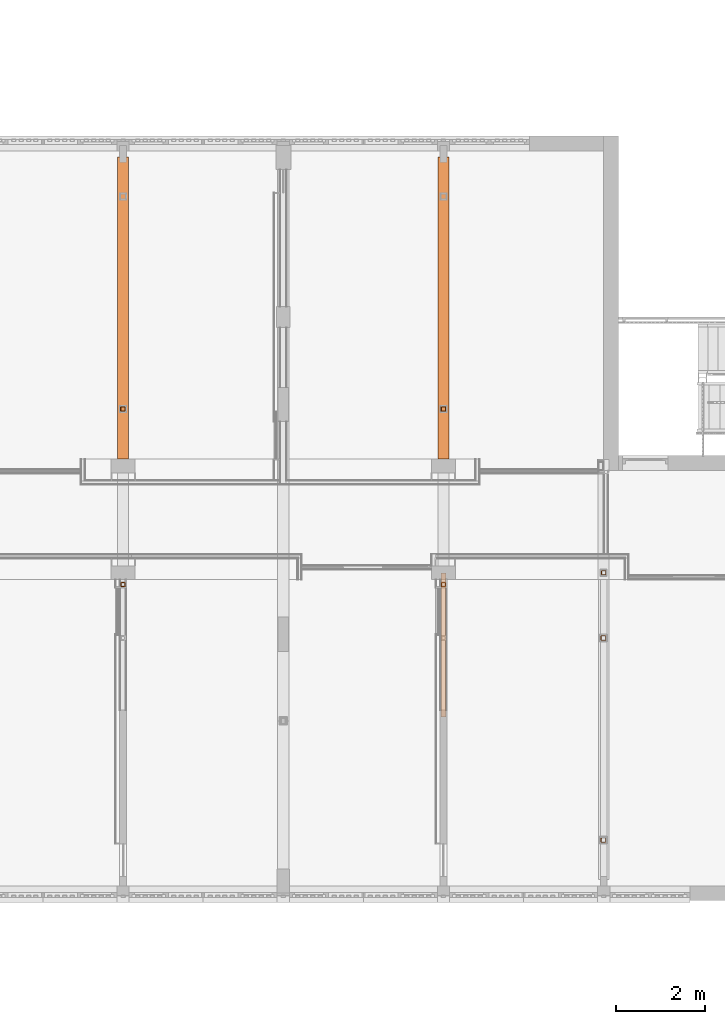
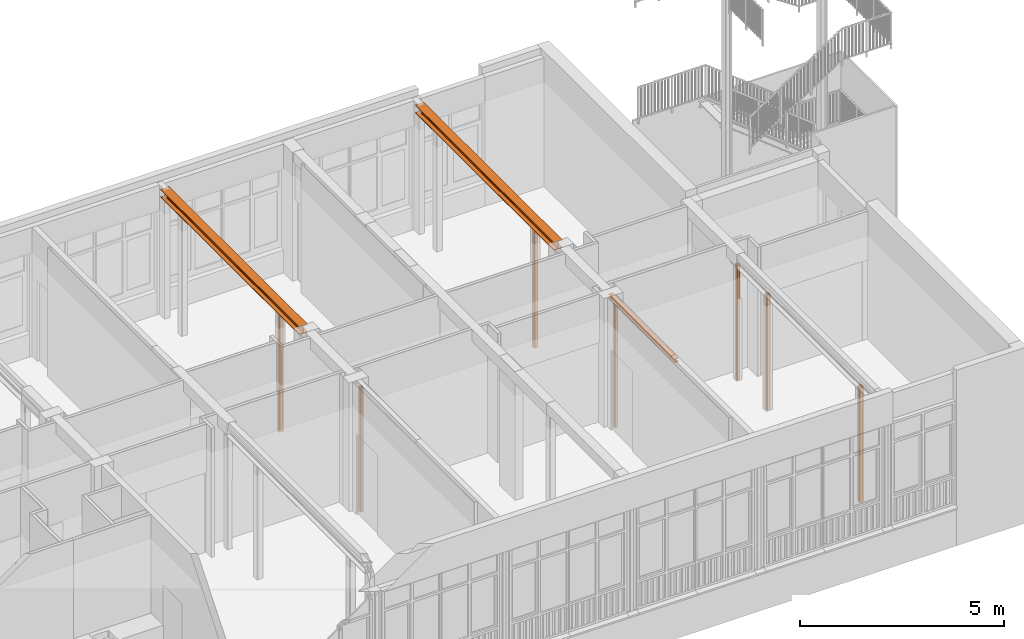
# One storey, part 124 of 135: 10 proxies.
"""IFC2X3 building model written with IfcOpenShell, lengths in millimetres."""

from ifc_helpers import new_model, entity, si_unit, converted_unit, derived_unit, money_unit, direction, frame, origin_with_axes, place, context, subcontext, project, spatial, faceted_brep, source, transform, mapped, material, type_object, type_shapes, element, save


model = new_model("IFC2X3")

# Units and contexts
model_context = context("Model", 3, precision=0.01, world=origin_with_axes(), true_north=direction((0.0, 1.0)))
body_context = subcontext(model_context, "Body", "Model", "MODEL_VIEW")
ifc_project = project(units=[si_unit("LENGTHUNIT", "METRE", prefix="MILLI"), si_unit("AREAUNIT", "SQUARE_METRE"), si_unit("VOLUMEUNIT", "CUBIC_METRE"), converted_unit("PLANEANGLEUNIT", "DEGREE", entity("IfcPlaneAngleMeasure", 0.0174532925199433), si_unit("PLANEANGLEUNIT", "RADIAN"), dimensions=[0, 0, 0, 0, 0, 0, 0]), money_unit("EUR"), converted_unit("TIMEUNIT", "Year", entity("IfcTimeMeasure", 31557600.0), si_unit("TIMEUNIT", "SECOND"), dimensions=[0, 0, 1, 0, 0, 0, 0]), si_unit("MASSUNIT", "GRAM", prefix="KILO"), si_unit("THERMODYNAMICTEMPERATUREUNIT", "DEGREE_CELSIUS"), si_unit("LUMINOUSINTENSITYUNIT", "LUMEN"), si_unit("ENERGYUNIT", "JOULE", prefix="MEGA"), derived_unit("THERMALCONDUCTANCEUNIT", [(si_unit("POWERUNIT", "WATT"), 1), (si_unit("LENGTHUNIT", "METRE"), -1), (si_unit("THERMODYNAMICTEMPERATUREUNIT", "KELVIN"), -1)]), derived_unit("SPECIFICHEATCAPACITYUNIT", [(si_unit("ENERGYUNIT", "JOULE"), 1), (si_unit("MASSUNIT", "GRAM", prefix="KILO"), -1), (si_unit("THERMODYNAMICTEMPERATUREUNIT", "KELVIN"), -1)]), derived_unit("MASSDENSITYUNIT", [(si_unit("MASSUNIT", "GRAM", prefix="KILO"), 1), (si_unit("VOLUMEUNIT", "CUBIC_METRE"), -1)])], contexts=[model_context])

# Site, building, storey
site_placement = place(None, origin_with_axes())
site = spatial("IfcSite", under=ifc_project, at=site_placement, Name="Site", CompositionType="ELEMENT")
building_placement = place(site_placement, origin_with_axes())
building = spatial("IfcBuilding", under=site, at=building_placement, Name="Naam gebouw", CompositionType="ELEMENT")
storey_placement = place(building_placement, origin_with_axes())
storey = spatial("IfcBuildingStorey", under=building, at=storey_placement, Name="Begane grond N", CompositionType="ELEMENT", Elevation=0.0)

# Proxies
ifc_material = material(Name="Metaal - Staal AFW")
building_element_proxy_type_1 = type_object("IfcBuildingElementProxyType", Name="Buis vk warmgew kolom 27", PredefinedType="NOTDEFINED")
shared_shape_1 = source(origin_with_axes(), body_context, "Body", "Brep", [
    faceted_brep([(34.0, -50.0, 0.0), (34.0, -50.0, 3439.999999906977), (-34.0, -50.0, 3439.999999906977), (-34.0, -50.0, 0.0), (45.31370849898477, -45.31370849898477, 0.0), (45.31370849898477, -45.31370849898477, 3439.999999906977), (50.0, -34.0, 3439.999999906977), (50.0, 34.0, 3439.999999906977), (45.31370849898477, 45.31370849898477, 3439.999999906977), (34.0, 50.0, 3439.999999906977), (-34.0, 50.0, 3439.999999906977), (-45.31370849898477, 45.31370849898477, 3439.999999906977), (-50.0, 34.0, 3439.999999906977), (-50.0, -34.0, 3439.999999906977), (-45.31370849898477, -45.31370849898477, 3439.999999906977), (34.00000000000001, -41.99999999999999, 3439.999999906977), (-34.0, -42.0, 3439.999999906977), (-39.65685424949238, -39.65685424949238, 3439.999999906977), (-41.99999999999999, -34.00000000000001, 3439.999999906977), (-42.0, 34.0, 3439.999999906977), (-39.65685424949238, 39.65685424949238, 3439.999999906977), (-34.00000000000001, 41.99999999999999, 3439.999999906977), (34.0, 42.0, 3439.999999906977), (39.65685424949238, 39.65685424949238, 3439.999999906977), (41.99999999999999, 34.00000000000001, 3439.999999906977), (42.0, -34.0, 3439.999999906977), (39.65685424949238, -39.65685424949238, 3439.999999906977), (-45.31370849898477, -45.31370849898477, 0.0), (-50.0, -34.0, 0.0), (-50.0, 34.0, 0.0), (-45.31370849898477, 45.31370849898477, 0.0), (-34.0, 50.0, 0.0), (34.0, 50.0, 0.0), (45.31370849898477, 45.31370849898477, 0.0), (50.0, 34.0, 0.0), (50.0, -34.0, 0.0), (34.00000000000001, -41.99999999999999, 0.0), (39.65685424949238, -39.65685424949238, 0.0), (42.0, -34.0, 0.0), (41.99999999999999, 34.00000000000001, 0.0), (39.65685424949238, 39.65685424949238, 0.0), (34.0, 42.0, 0.0), (-34.00000000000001, 41.99999999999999, 0.0), (-39.65685424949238, 39.65685424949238, 0.0), (-42.0, 34.0, 0.0), (-41.99999999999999, -34.00000000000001, 0.0), (-39.65685424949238, -39.65685424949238, 0.0), (-34.0, -42.0, 0.0)], [[[0, 1, 2, 3]], [[4, 5, 1, 0]], [[1, 5, 6, 7, 8, 9, 10, 11, 12, 13, 14, 2], [15, 16, 17, 18, 19, 20, 21, 22, 23, 24, 25, 26]], [[3, 2, 14, 27]], [[0, 3, 27, 28, 29, 30, 31, 32, 33, 34, 35, 4], [36, 37, 38, 39, 40, 41, 42, 43, 44, 45, 46, 47]], [[35, 6, 5, 4]], [[34, 7, 6, 35]], [[33, 8, 7, 34]], [[32, 9, 8, 33]], [[31, 10, 9, 32]], [[30, 11, 10, 31]], [[29, 12, 11, 30]], [[28, 13, 12, 29]], [[27, 14, 13, 28]], [[47, 16, 15, 36]], [[46, 17, 16, 47]], [[45, 18, 17, 46]], [[44, 19, 18, 45]], [[43, 20, 19, 44]], [[42, 21, 20, 43]], [[41, 22, 21, 42]], [[40, 23, 22, 41]], [[39, 24, 23, 40]], [[38, 25, 24, 39]], [[37, 26, 25, 38]], [[36, 15, 26, 37]]]),
])
proxy_1_placement = place(storey_placement, frame((54000.0, 18025.91242510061, 0.0), z_axis=(0.0, 0.0, 1.0), x_axis=(0.0, -1.0, 0.0)))
element("IfcBuildingElementProxy", 1, at=proxy_1_placement, inside=storey, type_object=building_element_proxy_type_1, material=ifc_material, Name="_Boom-x", context=body_context, shape_type="MappedRepresentation", body=[
    mapped(shared_shape_1, transform((0.0, 0.0, 0.0))),
])
shared_shape_2 = source(origin_with_axes(), body_context, "Body", "Brep", [
    faceted_brep([(34.0, -50.0, 0.0), (34.0, -50.0, 3716.047681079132), (-34.0, -50.0, 3716.047681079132), (-34.0, -50.0, 0.0), (45.31370849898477, -45.31370849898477, 0.0), (45.31370849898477, -45.31370849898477, 3716.047681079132), (50.0, -34.0, 3716.047681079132), (50.0, 34.0, 3716.047681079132), (45.31370849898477, 45.31370849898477, 3716.047681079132), (34.0, 50.0, 3716.047681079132), (-34.0, 50.0, 3716.047681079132), (-45.31370849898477, 45.31370849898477, 3716.047681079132), (-50.0, 34.0, 3716.047681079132), (-50.0, -34.0, 3716.047681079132), (-45.31370849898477, -45.31370849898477, 3716.047681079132), (34.00000000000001, -41.99999999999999, 3716.047681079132), (-34.0, -42.0, 3716.047681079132), (-39.65685424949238, -39.65685424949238, 3716.047681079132), (-41.99999999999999, -34.00000000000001, 3716.047681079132), (-42.0, 34.0, 3716.047681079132), (-39.65685424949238, 39.65685424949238, 3716.047681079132), (-34.00000000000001, 41.99999999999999, 3716.047681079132), (34.0, 42.0, 3716.047681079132), (39.65685424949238, 39.65685424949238, 3716.047681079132), (41.99999999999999, 34.00000000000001, 3716.047681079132), (42.0, -34.0, 3716.047681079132), (39.65685424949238, -39.65685424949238, 3716.047681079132), (-45.31370849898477, -45.31370849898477, 0.0), (-50.0, -34.0, 0.0), (-50.0, 34.0, 0.0), (-45.31370849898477, 45.31370849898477, 0.0), (-34.0, 50.0, 0.0), (34.0, 50.0, 0.0), (45.31370849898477, 45.31370849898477, 0.0), (50.0, 34.0, 0.0), (50.0, -34.0, 0.0), (34.00000000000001, -41.99999999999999, 0.0), (39.65685424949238, -39.65685424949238, 0.0), (42.0, -34.0, 0.0), (41.99999999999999, 34.00000000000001, 0.0), (39.65685424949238, 39.65685424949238, 0.0), (34.0, 42.0, 0.0), (-34.00000000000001, 41.99999999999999, 0.0), (-39.65685424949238, 39.65685424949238, 0.0), (-42.0, 34.0, 0.0), (-41.99999999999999, -34.00000000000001, 0.0), (-39.65685424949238, -39.65685424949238, 0.0), (-34.0, -42.0, 0.0)], [[[0, 1, 2, 3]], [[4, 5, 1, 0]], [[1, 5, 6, 7, 8, 9, 10, 11, 12, 13, 14, 2], [15, 16, 17, 18, 19, 20, 21, 22, 23, 24, 25, 26]], [[3, 2, 14, 27]], [[0, 3, 27, 28, 29, 30, 31, 32, 33, 34, 35, 4], [36, 37, 38, 39, 40, 41, 42, 43, 44, 45, 46, 47]], [[35, 6, 5, 4]], [[34, 7, 6, 35]], [[33, 8, 7, 34]], [[32, 9, 8, 33]], [[31, 10, 9, 32]], [[30, 11, 10, 31]], [[29, 12, 11, 30]], [[28, 13, 12, 29]], [[27, 14, 13, 28]], [[47, 16, 15, 36]], [[46, 17, 16, 47]], [[45, 18, 17, 46]], [[44, 19, 18, 45]], [[43, 20, 19, 44]], [[42, 21, 20, 43]], [[41, 22, 21, 42]], [[40, 23, 22, 41]], [[39, 24, 23, 40]], [[38, 25, 24, 39]], [[37, 26, 25, 38]], [[36, 15, 26, 37]]]),
])
for number, where, z_axis, x_axis, name in (
    (2, (50399.99999999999, 17760.91242510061, 0.0), (0.0, 0.0, 1.0), (0.0, -1.0, 0.0), "_Boom-x"),
    (3, (43200.0, 17760.91242510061, 0.0), (0.0, 0.0, 1.0), (0.0, -1.0, 0.0), "_Boom-x"),
):
    element("IfcBuildingElementProxy", number, at=place(storey_placement, frame(where, z_axis=z_axis, x_axis=x_axis)), inside=storey, type_object=building_element_proxy_type_1, material=ifc_material, Name=name, context=body_context, shape_type="MappedRepresentation", body=[
        mapped(shared_shape_2, transform((0.0, 0.0, 0.0))),
    ])
building_element_proxy_type_2 = type_object("IfcBuildingElementProxyType", Name="HEB balk 27", PredefinedType="NOTDEFINED")
shared_shape_3 = source(origin_with_axes(), body_context, "Body", "Brep", [
    faceted_brep([(0.0, -120.0, 0.0), (-6785.0, -120.0000000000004, 0.0), (-6785.0, 119.9999999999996, 0.0), (0.0, 120.0, 0.0), (0.0, -120.0, 17.0), (-6785.0, -120.0000000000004, 17.00000000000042), (-6785.0, -26.00000000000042, 17.00000000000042), (-6785.0, -15.50000000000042, 19.81346652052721), (-6785.0, -7.813466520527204, 27.50000000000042), (-6785.0, -5.000000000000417, 38.00000000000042), (-6785.0, -5.000000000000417, 202.0000000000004), (-6785.0, -7.813466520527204, 212.5000000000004), (-6785.0, -15.50000000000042, 220.1865334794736), (-6785.0, -26.00000000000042, 223.0000000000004), (-6785.0, -120.0000000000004, 223.0000000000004), (-6785.0, -120.0000000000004, 240.0000000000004), (-6785.0, 119.9999999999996, 240.0000000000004), (-6785.0, 119.9999999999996, 223.0000000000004), (-6785.0, 25.99999999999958, 223.0000000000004), (-6785.0, 15.49999999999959, 220.1865334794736), (-6785.0, 7.813466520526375, 212.5000000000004), (-6785.0, 4.999999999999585, 202.0000000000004), (-6785.0, 4.999999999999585, 38.00000000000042), (-6785.0, 7.813466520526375, 27.50000000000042), (-6785.0, 15.49999999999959, 19.81346652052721), (-6785.0, 25.99999999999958, 17.00000000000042), (-6785.0, 119.9999999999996, 17.00000000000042), (0.0, 120.0, 17.0), (0.0, 26.0, 17.0), (0.0, 15.5, 19.8134665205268), (0.0, 7.81346652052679, 27.5), (0.0, 5.000000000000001, 38.00000000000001), (0.0, 5.000000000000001, 202.0), (0.0, 7.81346652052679, 212.5), (0.0, 15.5, 220.1865334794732), (0.0, 26.0, 223.0), (0.0, 120.0, 223.0), (0.0, 120.0, 240.0), (0.0, -120.0, 240.0), (0.0, -120.0, 223.0), (0.0, -26.0, 223.0), (0.0, -15.5, 220.1865334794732), (0.0, -7.81346652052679, 212.5), (0.0, -5.000000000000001, 202.0), (0.0, -5.000000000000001, 38.00000000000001), (0.0, -7.81346652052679, 27.5), (0.0, -15.5, 19.8134665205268), (0.0, -26.0, 17.0)], [[[0, 1, 2, 3]], [[4, 5, 1, 0]], [[1, 5, 6, 7, 8, 9, 10, 11, 12, 13, 14, 15, 16, 17, 18, 19, 20, 21, 22, 23, 24, 25, 26, 2]], [[3, 2, 26, 27]], [[0, 3, 27, 28, 29, 30, 31, 32, 33, 34, 35, 36, 37, 38, 39, 40, 41, 42, 43, 44, 45, 46, 47, 4]], [[47, 6, 5, 4]], [[46, 7, 6, 47]], [[45, 8, 7, 46]], [[44, 9, 8, 45]], [[43, 10, 9, 44]], [[42, 11, 10, 43]], [[41, 12, 11, 42]], [[40, 13, 12, 41]], [[39, 14, 13, 40]], [[38, 15, 14, 39]], [[37, 16, 15, 38]], [[36, 17, 16, 37]], [[35, 18, 17, 36]], [[34, 19, 18, 35]], [[33, 20, 19, 34]], [[32, 21, 20, 33]], [[31, 22, 21, 32]], [[30, 23, 22, 31]], [[29, 24, 23, 30]], [[28, 25, 24, 29]], [[27, 26, 25, 28]]]),
])
type_shapes(building_element_proxy_type_2, [shared_shape_3])
for number, where, z_axis, x_axis, name in (
    (4, (43199.99999999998, 20580.91242510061, 3590.0), (0.0, 0.0, 1.0), (0.0, -1.0, 0.0), "_Boom-x"),
    (5, (50399.99999999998, 20580.91242510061, 3590.0), (0.0, 0.0, 1.0), (0.0, -1.0, 0.0), "_Boom-x"),
):
    element("IfcBuildingElementProxy", number, at=place(storey_placement, frame(where, z_axis=z_axis, x_axis=x_axis)), inside=storey, type_object=building_element_proxy_type_2, material=ifc_material, Name=name, context=body_context, shape_type="MappedRepresentation", body=[
        mapped(shared_shape_3, transform((0.0, 0.0, 0.0))),
    ])
building_element_proxy_type_3 = type_object("IfcBuildingElementProxyType", Name="HEA balk 27", PredefinedType="NOTDEFINED")
shared_shape_4 = source(origin_with_axes(), body_context, "Body", "Brep", [
    faceted_brep([(0.0, -60.0, 0.0), (-3234.000000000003, -60.0000000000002, 0.0), (-3234.000000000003, 59.99999999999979, 0.0), (0.0, 60.0, 0.0), (0.0, -60.0, 8.0), (-3234.000000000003, -60.0000000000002, 8.000000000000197), (-3234.000000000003, -14.5000000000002, 8.000000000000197), (-3234.000000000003, -8.500000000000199, 9.607695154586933), (-3234.000000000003, -4.107695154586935, 14.0000000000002), (-3234.000000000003, -2.500000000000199, 20.0000000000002), (-3234.000000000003, -2.500000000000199, 94.00000000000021), (-3234.000000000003, -4.107695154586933, 100.0000000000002), (-3234.000000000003, -8.500000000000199, 104.3923048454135), (-3234.000000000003, -14.5000000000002, 106.0000000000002), (-3234.000000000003, -60.0000000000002, 106.0000000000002), (-3234.000000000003, -60.0000000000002, 114.0000000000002), (-3234.000000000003, 59.99999999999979, 114.0000000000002), (-3234.000000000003, 59.99999999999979, 106.0000000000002), (-3234.000000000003, 14.4999999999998, 106.0000000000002), (-3234.000000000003, 8.499999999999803, 104.3923048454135), (-3234.000000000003, 4.107695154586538, 100.0000000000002), (-3234.000000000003, 2.499999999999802, 94.00000000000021), (-3234.000000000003, 2.499999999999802, 20.0000000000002), (-3234.000000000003, 4.10769515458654, 14.0000000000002), (-3234.000000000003, 8.499999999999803, 9.607695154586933), (-3234.000000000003, 14.4999999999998, 8.000000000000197), (-3234.000000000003, 59.99999999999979, 8.000000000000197), (0.0, 60.0, 8.0), (0.0, 14.5, 8.0), (0.0, 8.5, 9.607695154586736), (0.0, 4.107695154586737, 14.0), (0.0, 2.5, 20.0), (0.0, 2.5, 94.00000000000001), (0.0, 4.107695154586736, 100.0), (0.0, 8.5, 104.3923048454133), (0.0, 14.5, 106.0), (0.0, 60.0, 106.0), (0.0, 60.0, 114.0), (0.0, -60.0, 114.0), (0.0, -60.0, 106.0), (0.0, -14.5, 106.0), (0.0, -8.5, 104.3923048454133), (0.0, -4.107695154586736, 100.0), (0.0, -2.5, 94.00000000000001), (0.0, -2.5, 20.0), (0.0, -4.107695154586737, 14.0), (0.0, -8.5, 9.607695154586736), (0.0, -14.5, 8.0)], [[[0, 1, 2, 3]], [[4, 5, 1, 0]], [[1, 5, 6, 7, 8, 9, 10, 11, 12, 13, 14, 15, 16, 17, 18, 19, 20, 21, 22, 23, 24, 25, 26, 2]], [[3, 2, 26, 27]], [[0, 3, 27, 28, 29, 30, 31, 32, 33, 34, 35, 36, 37, 38, 39, 40, 41, 42, 43, 44, 45, 46, 47, 4]], [[47, 6, 5, 4]], [[46, 7, 6, 47]], [[45, 8, 7, 46]], [[44, 9, 8, 45]], [[43, 10, 9, 44]], [[42, 11, 10, 43]], [[41, 12, 11, 42]], [[40, 13, 12, 41]], [[39, 14, 13, 40]], [[38, 15, 14, 39]], [[37, 16, 15, 38]], [[36, 17, 16, 37]], [[35, 18, 17, 36]], [[34, 19, 18, 35]], [[33, 20, 19, 34]], [[32, 21, 20, 33]], [[31, 22, 21, 32]], [[30, 23, 22, 31]], [[29, 24, 23, 30]], [[28, 25, 24, 29]], [[27, 26, 25, 28]]]),
])
type_shapes(building_element_proxy_type_3, [shared_shape_4])
proxy_2_placement = place(storey_placement, frame((50400.0, 14786.9124251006, 3716.047681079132), z_axis=(0.0, 0.0, 1.0), x_axis=(0.0, -1.0, 0.0)))
element("IfcBuildingElementProxy", 6, at=proxy_2_placement, inside=storey, type_object=building_element_proxy_type_3, material=ifc_material, Name="_Boom-x", context=body_context, shape_type="MappedRepresentation", body=[
    mapped(shared_shape_4, transform((0.0, 0.0, 0.0))),
])
shared_shape_5 = source(origin_with_axes(), body_context, "Body", "Brep", [
    faceted_brep([(39.99999999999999, -60.0, 0.0), (39.99999999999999, -60.0, 3589.999999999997), (-39.99999999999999, -60.0, 3589.999999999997), (-39.99999999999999, -60.0, 0.0), (54.14213562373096, -54.14213562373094, 0.0), (54.14213562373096, -54.14213562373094, 3589.999999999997), (60.0, -39.99999999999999, 3589.999999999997), (60.0, 39.99999999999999, 3589.999999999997), (54.14213562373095, 54.14213562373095, 3589.999999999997), (39.99999999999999, 60.0, 3589.999999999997), (-39.99999999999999, 60.0, 3589.999999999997), (-54.14213562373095, 54.14213562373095, 3589.999999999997), (-60.0, 39.99999999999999, 3589.999999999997), (-60.0, -39.99999999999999, 3589.999999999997), (-54.14213562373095, -54.14213562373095, 3589.999999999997), (40.0, -49.99999999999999, 3589.999999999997), (-39.99999999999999, -49.99999999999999, 3589.999999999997), (-47.07106781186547, -47.07106781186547, 3589.999999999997), (-49.99999999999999, -40.0, 3589.999999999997), (-49.99999999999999, 39.99999999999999, 3589.999999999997), (-47.07106781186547, 47.07106781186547, 3589.999999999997), (-40.0, 49.99999999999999, 3589.999999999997), (39.99999999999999, 49.99999999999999, 3589.999999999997), (47.07106781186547, 47.07106781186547, 3589.999999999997), (49.99999999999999, 40.0, 3589.999999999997), (49.99999999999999, -39.99999999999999, 3589.999999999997), (47.07106781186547, -47.07106781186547, 3589.999999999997), (-54.14213562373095, -54.14213562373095, 0.0), (-60.0, -39.99999999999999, 0.0), (-60.0, 39.99999999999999, 0.0), (-54.14213562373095, 54.14213562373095, 0.0), (-39.99999999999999, 60.0, 0.0), (39.99999999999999, 60.0, 0.0), (54.14213562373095, 54.14213562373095, 0.0), (60.0, 39.99999999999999, 0.0), (60.0, -39.99999999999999, 0.0), (40.0, -49.99999999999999, 0.0), (47.07106781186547, -47.07106781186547, 0.0), (49.99999999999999, -39.99999999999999, 0.0), (49.99999999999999, 40.0, 0.0), (47.07106781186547, 47.07106781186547, 0.0), (39.99999999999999, 49.99999999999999, 0.0), (-40.0, 49.99999999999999, 0.0), (-47.07106781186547, 47.07106781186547, 0.0), (-49.99999999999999, 39.99999999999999, 0.0), (-49.99999999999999, -40.0, 0.0), (-47.07106781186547, -47.07106781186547, 0.0), (-39.99999999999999, -49.99999999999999, 0.0)], [[[0, 1, 2, 3]], [[4, 5, 1, 0]], [[1, 5, 6, 7, 8, 9, 10, 11, 12, 13, 14, 2], [15, 16, 17, 18, 19, 20, 21, 22, 23, 24, 25, 26]], [[3, 2, 14, 27]], [[0, 3, 27, 28, 29, 30, 31, 32, 33, 34, 35, 4], [36, 37, 38, 39, 40, 41, 42, 43, 44, 45, 46, 47]], [[35, 6, 5, 4]], [[34, 7, 6, 35]], [[33, 8, 7, 34]], [[32, 9, 8, 33]], [[31, 10, 9, 32]], [[30, 11, 10, 31]], [[29, 12, 11, 30]], [[28, 13, 12, 29]], [[27, 14, 13, 28]], [[47, 16, 15, 36]], [[46, 17, 16, 47]], [[45, 18, 17, 46]], [[44, 19, 18, 45]], [[43, 20, 19, 44]], [[42, 21, 20, 43]], [[41, 22, 21, 42]], [[40, 23, 22, 41]], [[39, 24, 23, 40]], [[38, 25, 24, 39]], [[37, 26, 25, 38]], [[36, 15, 26, 37]]]),
])
for number, where, z_axis, x_axis, name in (
    (7, (43199.99999999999, 21705.91242510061, 0.0), (0.0, 0.0, 1.0), (0.0, -1.0, 0.0), "_Boom-x"),
    (8, (50399.99999999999, 21705.91242510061, 0.0), (0.0, 0.0, 1.0), (0.0, -1.0, 0.0), "_Boom-x"),
):
    element("IfcBuildingElementProxy", number, at=place(storey_placement, frame(where, z_axis=z_axis, x_axis=x_axis)), inside=storey, type_object=building_element_proxy_type_1, material=ifc_material, Name=name, context=body_context, shape_type="MappedRepresentation", body=[
        mapped(shared_shape_5, transform((0.0, 0.0, 0.0))),
    ])
shared_shape_6 = source(origin_with_axes(), body_context, "Body", "Brep", [
    faceted_brep([(39.99999999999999, -60.0, 0.0), (39.99999999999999, -60.0, 3439.999999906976), (-39.99999999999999, -60.0, 3439.999999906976), (-39.99999999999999, -60.0, 0.0), (54.14213562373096, -54.14213562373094, 0.0), (54.14213562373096, -54.14213562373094, 3439.999999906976), (60.0, -39.99999999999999, 3439.999999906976), (60.0, 39.99999999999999, 3439.999999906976), (54.14213562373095, 54.14213562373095, 3439.999999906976), (39.99999999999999, 60.0, 3439.999999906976), (-39.99999999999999, 60.0, 3439.999999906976), (-54.14213562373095, 54.14213562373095, 3439.999999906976), (-60.0, 39.99999999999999, 3439.999999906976), (-60.0, -39.99999999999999, 3439.999999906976), (-54.14213562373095, -54.14213562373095, 3439.999999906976), (40.0, -49.99999999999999, 3439.999999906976), (-39.99999999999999, -49.99999999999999, 3439.999999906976), (-47.07106781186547, -47.07106781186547, 3439.999999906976), (-49.99999999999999, -40.0, 3439.999999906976), (-49.99999999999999, 39.99999999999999, 3439.999999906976), (-47.07106781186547, 47.07106781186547, 3439.999999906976), (-40.0, 49.99999999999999, 3439.999999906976), (39.99999999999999, 49.99999999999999, 3439.999999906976), (47.07106781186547, 47.07106781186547, 3439.999999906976), (49.99999999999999, 40.0, 3439.999999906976), (49.99999999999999, -39.99999999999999, 3439.999999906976), (47.07106781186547, -47.07106781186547, 3439.999999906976), (-54.14213562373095, -54.14213562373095, 0.0), (-60.0, -39.99999999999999, 0.0), (-60.0, 39.99999999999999, 0.0), (-54.14213562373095, 54.14213562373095, 0.0), (-39.99999999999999, 60.0, 0.0), (39.99999999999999, 60.0, 0.0), (54.14213562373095, 54.14213562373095, 0.0), (60.0, 39.99999999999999, 0.0), (60.0, -39.99999999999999, 0.0), (40.0, -49.99999999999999, 0.0), (47.07106781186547, -47.07106781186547, 0.0), (49.99999999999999, -39.99999999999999, 0.0), (49.99999999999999, 40.0, 0.0), (47.07106781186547, 47.07106781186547, 0.0), (39.99999999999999, 49.99999999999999, 0.0), (-40.0, 49.99999999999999, 0.0), (-47.07106781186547, 47.07106781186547, 0.0), (-49.99999999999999, 39.99999999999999, 0.0), (-49.99999999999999, -40.0, 0.0), (-47.07106781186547, -47.07106781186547, 0.0), (-39.99999999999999, -49.99999999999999, 0.0)], [[[0, 1, 2, 3]], [[4, 5, 1, 0]], [[1, 5, 6, 7, 8, 9, 10, 11, 12, 13, 14, 2], [15, 16, 17, 18, 19, 20, 21, 22, 23, 24, 25, 26]], [[3, 2, 14, 27]], [[0, 3, 27, 28, 29, 30, 31, 32, 33, 34, 35, 4], [36, 37, 38, 39, 40, 41, 42, 43, 44, 45, 46, 47]], [[35, 6, 5, 4]], [[34, 7, 6, 35]], [[33, 8, 7, 34]], [[32, 9, 8, 33]], [[31, 10, 9, 32]], [[30, 11, 10, 31]], [[29, 12, 11, 30]], [[28, 13, 12, 29]], [[27, 14, 13, 28]], [[47, 16, 15, 36]], [[46, 17, 16, 47]], [[45, 18, 17, 46]], [[44, 19, 18, 45]], [[43, 20, 19, 44]], [[42, 21, 20, 43]], [[41, 22, 21, 42]], [[40, 23, 22, 41]], [[39, 24, 23, 40]], [[38, 25, 24, 39]], [[37, 26, 25, 38]], [[36, 15, 26, 37]]]),
])
type_shapes(building_element_proxy_type_1, [shared_shape_1, shared_shape_2, shared_shape_5, shared_shape_6])
for number, where, z_axis, x_axis, name in (
    (9, (54000.00000000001, 12015.91242510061, 0.0), (0.0, 0.0, 1.0), (0.0, -1.0, 0.0), "_Boom-x"),
    (10, (54000.00000000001, 16560.91242510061, 0.0), (0.0, 0.0, 1.0), (0.0, -1.0, 0.0), "_Boom-x"),
):
    element("IfcBuildingElementProxy", number, at=place(storey_placement, frame(where, z_axis=z_axis, x_axis=x_axis)), inside=storey, type_object=building_element_proxy_type_1, material=ifc_material, Name=name, context=body_context, shape_type="MappedRepresentation", body=[
        mapped(shared_shape_6, transform((0.0, 0.0, 0.0))),
    ])

save(model, "model.ifc")
